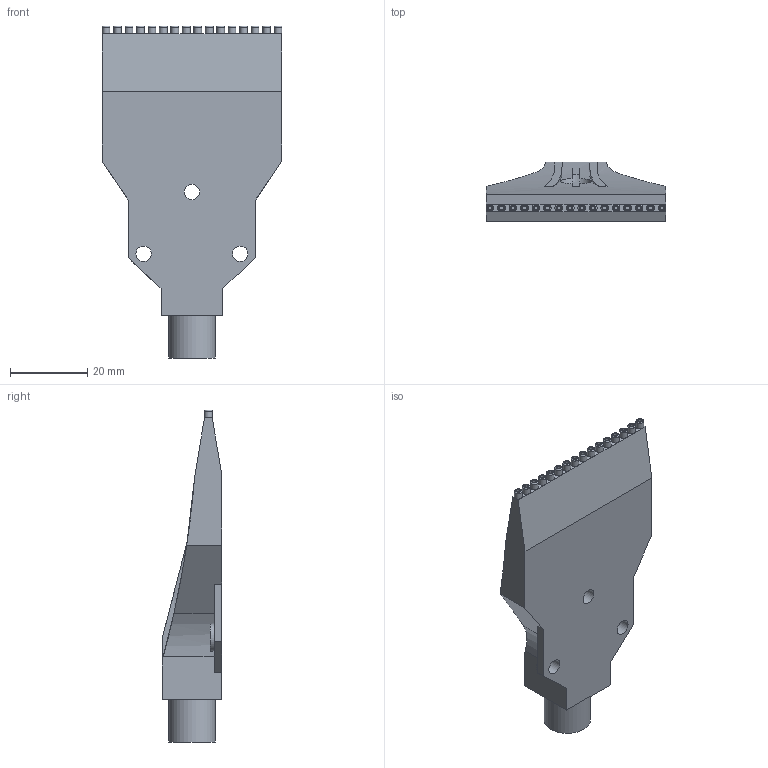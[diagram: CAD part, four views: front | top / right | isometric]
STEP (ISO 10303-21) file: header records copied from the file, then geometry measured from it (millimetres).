
FILE_DESCRIPTION(/* description */ (''),/* implementation_level */ '2;1');
FILE_NAME(/* name */ 'H:\cad\neutral\3d\73417\fach_f_blp_e.stp',/* time_stamp */ '2017-01-13T10:30:41+01:00',/* author */ ('hamoud'),/* organization */ (''),/* preprocessor_version */ 'ST-DEVELOPER v15.6',/* originating_system */ 'Autodesk Inventor LT ',/* authorisation */ '');
FILE_SCHEMA (('AUTOMOTIVE_DESIGN { 1 0 10303 214 3 1 1 }'));
Length unit declared in the file: millimetre
Products named in the file (1): windjet nozzle
Bounding box: 46.55 x 15.5 x 86 mm (x, y, z)
Volume: 22548.7 mm3; surface area: 9689.7 mm2
Topology: 1 solids, 1 shells, 149 faces, 330 edges, 201 vertices
Faces by surface type: plane 86, cylinder 43, torus 16, bspline 4
Full cylindrical faces by diameter (mm): 1 x16, 2 x16, 4 x3, 7 x2, 8 x1, 9 x1, 12 x1
Entity records: 3842 total; most frequent: CARTESIAN_POINT 801, DIRECTION 663, ORIENTED_EDGE 510, AXIS2_PLACEMENT_3D 278, EDGE_CURVE 255, EDGE_LOOP 229, VERTEX_POINT 182, FACE_OUTER_BOUND 149
